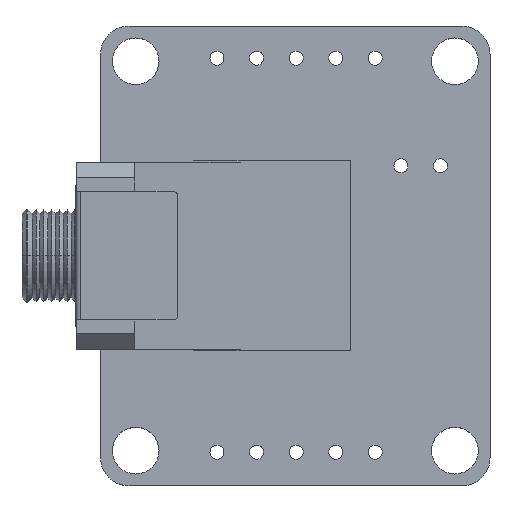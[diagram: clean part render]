
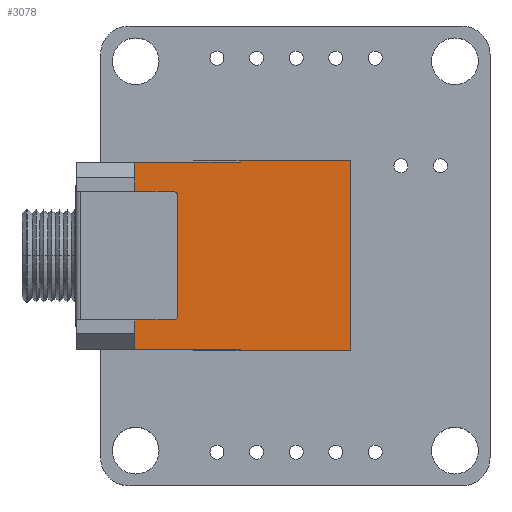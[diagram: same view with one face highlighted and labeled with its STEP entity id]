
A CAD part, top view. The second image highlights one B-rep face of the part: STEP entity #3078.
In plain terms, the highlighted planar face has unit normal (0, 0, 1).
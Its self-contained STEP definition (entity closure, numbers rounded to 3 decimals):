
#134 = LINE ( 'NONE', #2129, #10592 ) ;
#186 = VERTEX_POINT ( 'NONE', #1481 ) ;
#549 = VECTOR ( 'NONE', #1569, 1000. ) ;
#690 = DIRECTION ( 'NONE',  ( -1., 0., 0. ) ) ;
#861 = CARTESIAN_POINT ( 'NONE',  ( -9.7, -3.825, 3.5 ) ) ;
#902 = VERTEX_POINT ( 'NONE', #8312 ) ;
#916 = CARTESIAN_POINT ( 'NONE',  ( -14., 6.1, 3.5 ) ) ;
#925 = LINE ( 'NONE', #11748, #976 ) ;
#976 = VECTOR ( 'NONE', #6228, 1000. ) ;
#1204 = AXIS2_PLACEMENT_3D ( 'NONE', #861, #1712, #5021 ) ;
#1214 = CARTESIAN_POINT ( 'NONE',  ( -10., -3.825, 3.5 ) ) ;
#1240 = VECTOR ( 'NONE', #4295, 1000. ) ;
#1429 = EDGE_CURVE ( 'NONE', #10025, #186, #6290, .T. ) ;
#1481 = CARTESIAN_POINT ( 'NONE',  ( -14., -6., 3.5 ) ) ;
#1486 = LINE ( 'NONE', #3914, #8572 ) ;
#1569 = DIRECTION ( 'NONE',  ( 1., 0., 0. ) ) ;
#1712 = DIRECTION ( 'NONE',  ( 0., 0., -1. ) ) ;
#1760 = LINE ( 'NONE', #10496, #1986 ) ;
#1872 = EDGE_CURVE ( 'NONE', #7009, #4138, #10509, .T. ) ;
#1986 = VECTOR ( 'NONE', #690, 1000. ) ;
#2064 = LINE ( 'NONE', #14143, #1240 ) ;
#2117 = CARTESIAN_POINT ( 'NONE',  ( -14., -6.1, 3.5 ) ) ;
#2129 = CARTESIAN_POINT ( 'NONE',  ( -10., 1., 3.5 ) ) ;
#2413 = ORIENTED_EDGE ( 'NONE', *, *, #7592, .T. ) ;
#2472 = CARTESIAN_POINT ( 'NONE',  ( -14., 6., 3.5 ) ) ;
#2642 = LINE ( 'NONE', #7012, #549 ) ;
#2735 = LINE ( 'NONE', #3810, #4394 ) ;
#3013 = VECTOR ( 'NONE', #5430, 1000. ) ;
#3078 = ADVANCED_FACE ( 'NONE', ( #6947 ), #13228, .T. ) ;
#3179 = CARTESIAN_POINT ( 'NONE',  ( -14., -6.1, 3.5 ) ) ;
#3212 = VERTEX_POINT ( 'NONE', #9447 ) ;
#3225 = ORIENTED_EDGE ( 'NONE', *, *, #13422, .T. ) ;
#3409 = EDGE_CURVE ( 'NONE', #7009, #10025, #8806, .T. ) ;
#3545 = EDGE_CURVE ( 'NONE', #14183, #11291, #1486, .T. ) ;
#3703 = CARTESIAN_POINT ( 'NONE',  ( -21.1, -6.1, 3.5 ) ) ;
#3810 = CARTESIAN_POINT ( 'NONE',  ( -7.25, -4.125, 3.5 ) ) ;
#3914 = CARTESIAN_POINT ( 'NONE',  ( -14., 6.1, 3.5 ) ) ;
#4138 = VERTEX_POINT ( 'NONE', #7246 ) ;
#4270 = ORIENTED_EDGE ( 'NONE', *, *, #5052, .F. ) ;
#4287 = CARTESIAN_POINT ( 'NONE',  ( -7.25, 4.125, 3.5 ) ) ;
#4295 = DIRECTION ( 'NONE',  ( -1., 0., 0. ) ) ;
#4388 = CARTESIAN_POINT ( 'NONE',  ( -21.1, -6.1, 3.5 ) ) ;
#4394 = VECTOR ( 'NONE', #6962, 1000. ) ;
#4403 = CIRCLE ( 'NONE', #4627, 0.3 ) ;
#4443 = ORIENTED_EDGE ( 'NONE', *, *, #9506, .T. ) ;
#4496 = DIRECTION ( 'NONE',  ( 0., -1., 0. ) ) ;
#4512 = AXIS2_PLACEMENT_3D ( 'NONE', #10244, #12129, #4660 ) ;
#4627 = AXIS2_PLACEMENT_3D ( 'NONE', #4860, #5013, #11384 ) ;
#4642 = CIRCLE ( 'NONE', #1204, 0.3 ) ;
#4660 = DIRECTION ( 'NONE',  ( 1., 0., 0. ) ) ;
#4860 = CARTESIAN_POINT ( 'NONE',  ( -9.7, 3.825, 3.5 ) ) ;
#4904 = ORIENTED_EDGE ( 'NONE', *, *, #1872, .F. ) ;
#4928 = ORIENTED_EDGE ( 'NONE', *, *, #1429, .T. ) ;
#5013 = DIRECTION ( 'NONE',  ( 0., 0., -1. ) ) ;
#5021 = DIRECTION ( 'NONE',  ( 1., 0., 0. ) ) ;
#5052 = EDGE_CURVE ( 'NONE', #4138, #14183, #10790, .T. ) ;
#5183 = CARTESIAN_POINT ( 'NONE',  ( -7.25, 6., 3.5 ) ) ;
#5237 = EDGE_CURVE ( 'NONE', #13057, #13811, #7647, .T. ) ;
#5264 = EDGE_LOOP ( 'NONE', ( #13658, #10500, #3225, #13319, #4270, #4904, #5266, #4928, #11444, #8089, #7052, #2413, #11907, #4443 ) ) ;
#5266 = ORIENTED_EDGE ( 'NONE', *, *, #3409, .T. ) ;
#5430 = DIRECTION ( 'NONE',  ( 0., 1., 0. ) ) ;
#5507 = CARTESIAN_POINT ( 'NONE',  ( -14., -6.1, 3.5 ) ) ;
#5860 = DIRECTION ( 'NONE',  ( 0., -1., 0. ) ) ;
#6059 = VERTEX_POINT ( 'NONE', #11926 ) ;
#6228 = DIRECTION ( 'NONE',  ( 1., 0., 0. ) ) ;
#6290 = LINE ( 'NONE', #2117, #3013 ) ;
#6466 = CARTESIAN_POINT ( 'NONE',  ( -7.25, -4.125, 3.5 ) ) ;
#6714 = DIRECTION ( 'NONE',  ( 0., 1., 0. ) ) ;
#6947 = FACE_OUTER_BOUND ( 'NONE', #5264, .T. ) ;
#6962 = DIRECTION ( 'NONE',  ( 0., 1., 0. ) ) ;
#7009 = VERTEX_POINT ( 'NONE', #4388 ) ;
#7012 = CARTESIAN_POINT ( 'NONE',  ( -15., -6., 3.5 ) ) ;
#7052 = ORIENTED_EDGE ( 'NONE', *, *, #7560, .F. ) ;
#7246 = CARTESIAN_POINT ( 'NONE',  ( -21.1, 6.1, 3.5 ) ) ;
#7560 = EDGE_CURVE ( 'NONE', #3212, #9952, #925, .T. ) ;
#7592 = EDGE_CURVE ( 'NONE', #3212, #10570, #4642, .T. ) ;
#7647 = LINE ( 'NONE', #13188, #11848 ) ;
#7788 = EDGE_CURVE ( 'NONE', #902, #10570, #134, .T. ) ;
#8089 = ORIENTED_EDGE ( 'NONE', *, *, #8201, .T. ) ;
#8201 = EDGE_CURVE ( 'NONE', #10429, #9952, #2735, .T. ) ;
#8312 = CARTESIAN_POINT ( 'NONE',  ( -10., 3.825, 3.5 ) ) ;
#8572 = VECTOR ( 'NONE', #5860, 1000. ) ;
#8806 = LINE ( 'NONE', #5507, #12241 ) ;
#9098 = VECTOR ( 'NONE', #10295, 1000. ) ;
#9447 = CARTESIAN_POINT ( 'NONE',  ( -9.7, -4.125, 3.5 ) ) ;
#9506 = EDGE_CURVE ( 'NONE', #902, #6059, #4403, .T. ) ;
#9952 = VERTEX_POINT ( 'NONE', #6466 ) ;
#10025 = VERTEX_POINT ( 'NONE', #3179 ) ;
#10244 = CARTESIAN_POINT ( 'NONE',  ( -15., -4.125, 3.5 ) ) ;
#10295 = DIRECTION ( 'NONE',  ( 0., 1., 0. ) ) ;
#10429 = VERTEX_POINT ( 'NONE', #10604 ) ;
#10496 = CARTESIAN_POINT ( 'NONE',  ( -15., 6., 3.5 ) ) ;
#10500 = ORIENTED_EDGE ( 'NONE', *, *, #5237, .T. ) ;
#10509 = LINE ( 'NONE', #3703, #9098 ) ;
#10570 = VERTEX_POINT ( 'NONE', #1214 ) ;
#10592 = VECTOR ( 'NONE', #4496, 1000. ) ;
#10604 = CARTESIAN_POINT ( 'NONE',  ( -7.25, -6., 3.5 ) ) ;
#10741 = EDGE_CURVE ( 'NONE', #186, #10429, #2642, .T. ) ;
#10790 = LINE ( 'NONE', #916, #13930 ) ;
#10869 = DIRECTION ( 'NONE',  ( 1., 0., 0. ) ) ;
#11022 = DIRECTION ( 'NONE',  ( 1., 0., 0. ) ) ;
#11291 = VERTEX_POINT ( 'NONE', #2472 ) ;
#11384 = DIRECTION ( 'NONE',  ( 1., 0., 0. ) ) ;
#11444 = ORIENTED_EDGE ( 'NONE', *, *, #10741, .T. ) ;
#11748 = CARTESIAN_POINT ( 'NONE',  ( -3.45, -4.125, 3.5 ) ) ;
#11792 = EDGE_CURVE ( 'NONE', #13057, #6059, #2064, .T. ) ;
#11848 = VECTOR ( 'NONE', #6714, 1000. ) ;
#11907 = ORIENTED_EDGE ( 'NONE', *, *, #7788, .F. ) ;
#11926 = CARTESIAN_POINT ( 'NONE',  ( -9.7, 4.125, 3.5 ) ) ;
#12129 = DIRECTION ( 'NONE',  ( 0., 0., 1. ) ) ;
#12241 = VECTOR ( 'NONE', #11022, 1000. ) ;
#13057 = VERTEX_POINT ( 'NONE', #4287 ) ;
#13188 = CARTESIAN_POINT ( 'NONE',  ( -7.25, 6., 3.5 ) ) ;
#13228 = PLANE ( 'NONE',  #4512 ) ;
#13319 = ORIENTED_EDGE ( 'NONE', *, *, #3545, .F. ) ;
#13422 = EDGE_CURVE ( 'NONE', #13811, #11291, #1760, .T. ) ;
#13658 = ORIENTED_EDGE ( 'NONE', *, *, #11792, .F. ) ;
#13780 = CARTESIAN_POINT ( 'NONE',  ( -14., 6.1, 3.5 ) ) ;
#13811 = VERTEX_POINT ( 'NONE', #5183 ) ;
#13930 = VECTOR ( 'NONE', #10869, 1000. ) ;
#14143 = CARTESIAN_POINT ( 'NONE',  ( -10., 4.125, 3.5 ) ) ;
#14183 = VERTEX_POINT ( 'NONE', #13780 ) ;
